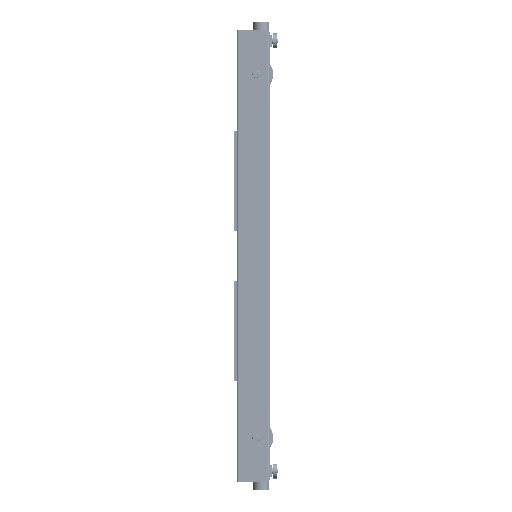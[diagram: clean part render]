
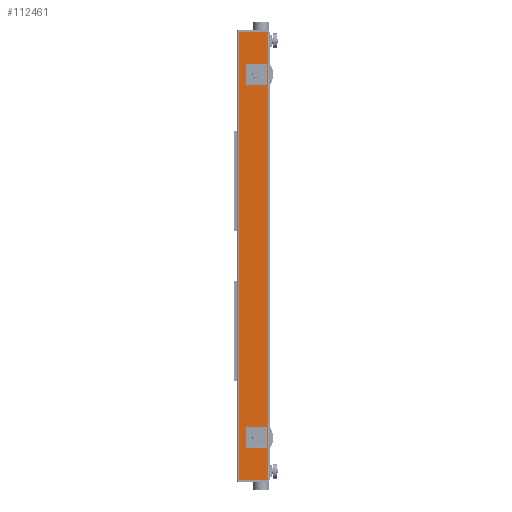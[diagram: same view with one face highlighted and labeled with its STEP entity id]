
A CAD part, left-side view. The second image highlights one B-rep face of the part: STEP entity #112461.
In plain terms, the highlighted planar face has unit normal (-1, 0, 0).
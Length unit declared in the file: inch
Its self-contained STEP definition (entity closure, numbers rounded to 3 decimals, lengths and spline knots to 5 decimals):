
#2017 = DIRECTION ( 'NONE',  ( 0., 0., -1. ) ) ;
#2855 = EDGE_CURVE ( 'NONE', #46673, #192175, #64408, .T. ) ;
#5434 = EDGE_LOOP ( 'NONE', ( #6897, #25314 ) ) ;
#6897 = ORIENTED_EDGE ( 'NONE', *, *, #153209, .T. ) ;
#8290 = CARTESIAN_POINT ( 'NONE',  ( 0., 3.335, 43.50075 ) ) ;
#12040 = EDGE_LOOP ( 'NONE', ( #54768, #192383 ) ) ;
#12101 = FACE_BOUND ( 'NONE', #5434, .T. ) ;
#20845 = CARTESIAN_POINT ( 'NONE',  ( 0., 0.5, -53.71875 ) ) ;
#24289 = DIRECTION ( 'NONE',  ( 1., 0., 0. ) ) ;
#25314 = ORIENTED_EDGE ( 'NONE', *, *, #147149, .T. ) ;
#27020 = CARTESIAN_POINT ( 'NONE',  ( 0., 7.5, -53.71875 ) ) ;
#34288 = LINE ( 'NONE', #124037, #192224 ) ;
#42668 = DIRECTION ( 'NONE',  ( 0., 1., 0. ) ) ;
#43311 = DIRECTION ( 'NONE',  ( 1., 0., 0. ) ) ;
#46673 = VERTEX_POINT ( 'NONE', #97104 ) ;
#53207 = DIRECTION ( 'NONE',  ( 0., 1., 0. ) ) ;
#54768 = ORIENTED_EDGE ( 'NONE', *, *, #90428, .T. ) ;
#56426 = CARTESIAN_POINT ( 'NONE',  ( 0., 3.335, -43.49975 ) ) ;
#57286 = DIRECTION ( 'NONE',  ( 1., 0., 0. ) ) ;
#59509 = CARTESIAN_POINT ( 'NONE',  ( 0., 3.335, -44.38575 ) ) ;
#63040 = VERTEX_POINT ( 'NONE', #105493 ) ;
#63619 = DIRECTION ( 'NONE',  ( 0., 0., -1. ) ) ;
#64408 = LINE ( 'NONE', #75205, #72794 ) ;
#64850 = CARTESIAN_POINT ( 'NONE',  ( 0., 3.335, -43.49975 ) ) ;
#65188 = AXIS2_PLACEMENT_3D ( 'NONE', #64850, #124345, #154675 ) ;
#67882 = CARTESIAN_POINT ( 'NONE',  ( 0., 3.335, -42.61375 ) ) ;
#69556 = CARTESIAN_POINT ( 'NONE',  ( 0., 3.335, 42.61475 ) ) ;
#71612 = FACE_OUTER_BOUND ( 'NONE', #154628, .T. ) ;
#72794 = VECTOR ( 'NONE', #2017, 39.37008 ) ;
#73755 = EDGE_CURVE ( 'NONE', #63040, #185481, #74193, .T. ) ;
#74193 = CIRCLE ( 'NONE', #152135, 0.886 ) ;
#75205 = CARTESIAN_POINT ( 'NONE',  ( 0., 7.5, 53.71875 ) ) ;
#77973 = LINE ( 'NONE', #20845, #113389 ) ;
#78266 = CARTESIAN_POINT ( 'NONE',  ( 0., 0.5, 53.71875 ) ) ;
#79519 = VERTEX_POINT ( 'NONE', #84234 ) ;
#79551 = AXIS2_PLACEMENT_3D ( 'NONE', #177110, #43311, #134031 ) ;
#84234 = CARTESIAN_POINT ( 'NONE',  ( 0., 0.5, -53.71875 ) ) ;
#84487 = VERTEX_POINT ( 'NONE', #67882 ) ;
#86549 = CARTESIAN_POINT ( 'NONE',  ( 0., 3.335, 43.50075 ) ) ;
#87169 = EDGE_CURVE ( 'NONE', #129260, #79519, #139771, .T. ) ;
#87190 = PLANE ( 'NONE',  #79551 ) ;
#90428 = EDGE_CURVE ( 'NONE', #185481, #63040, #135044, .T. ) ;
#97104 = CARTESIAN_POINT ( 'NONE',  ( 0., 7.5, 53.71875 ) ) ;
#97931 = FACE_BOUND ( 'NONE', #12040, .T. ) ;
#98352 = DIRECTION ( 'NONE',  ( 0., 1., 0. ) ) ;
#102358 = CIRCLE ( 'NONE', #65188, 0.886 ) ;
#105493 = CARTESIAN_POINT ( 'NONE',  ( 0., 3.335, 44.38675 ) ) ;
#109150 = EDGE_CURVE ( 'NONE', #192175, #79519, #77973, .T. ) ;
#112461 = ADVANCED_FACE ( 'NONE', ( #12101, #97931, #71612 ), #87190, .F. ) ;
#113389 = VECTOR ( 'NONE', #134617, 39.37008 ) ;
#124037 = CARTESIAN_POINT ( 'NONE',  ( 0., 0.5, 53.71875 ) ) ;
#124345 = DIRECTION ( 'NONE',  ( 1., 0., 0. ) ) ;
#129260 = VERTEX_POINT ( 'NONE', #147641 ) ;
#133272 = ORIENTED_EDGE ( 'NONE', *, *, #184193, .F. ) ;
#133653 = ORIENTED_EDGE ( 'NONE', *, *, #2855, .T. ) ;
#134031 = DIRECTION ( 'NONE',  ( 0., 1., 0. ) ) ;
#134617 = DIRECTION ( 'NONE',  ( 0., -1., 0. ) ) ;
#135044 = CIRCLE ( 'NONE', #181781, 0.886 ) ;
#135579 = ORIENTED_EDGE ( 'NONE', *, *, #87169, .F. ) ;
#139771 = LINE ( 'NONE', #78266, #190437 ) ;
#147149 = EDGE_CURVE ( 'NONE', #84487, #163662, #157597, .T. ) ;
#147641 = CARTESIAN_POINT ( 'NONE',  ( 0., 0.5, 53.71875 ) ) ;
#152135 = AXIS2_PLACEMENT_3D ( 'NONE', #8290, #173265, #53207 ) ;
#153209 = EDGE_CURVE ( 'NONE', #163662, #84487, #102358, .T. ) ;
#154628 = EDGE_LOOP ( 'NONE', ( #164759, #135579, #133272, #133653 ) ) ;
#154675 = DIRECTION ( 'NONE',  ( 0., 1., 0. ) ) ;
#157597 = CIRCLE ( 'NONE', #185633, 0.886 ) ;
#163662 = VERTEX_POINT ( 'NONE', #59509 ) ;
#164759 = ORIENTED_EDGE ( 'NONE', *, *, #109150, .T. ) ;
#173265 = DIRECTION ( 'NONE',  ( 1., 0., 0. ) ) ;
#177110 = CARTESIAN_POINT ( 'NONE',  ( 0., 0.5, 53.71875 ) ) ;
#181781 = AXIS2_PLACEMENT_3D ( 'NONE', #86549, #57286, #42668 ) ;
#183676 = DIRECTION ( 'NONE',  ( 0., -1., 0. ) ) ;
#184193 = EDGE_CURVE ( 'NONE', #46673, #129260, #34288, .T. ) ;
#185481 = VERTEX_POINT ( 'NONE', #69556 ) ;
#185633 = AXIS2_PLACEMENT_3D ( 'NONE', #56426, #24289, #98352 ) ;
#190437 = VECTOR ( 'NONE', #63619, 39.37008 ) ;
#192175 = VERTEX_POINT ( 'NONE', #27020 ) ;
#192224 = VECTOR ( 'NONE', #183676, 39.37008 ) ;
#192383 = ORIENTED_EDGE ( 'NONE', *, *, #73755, .T. ) ;
